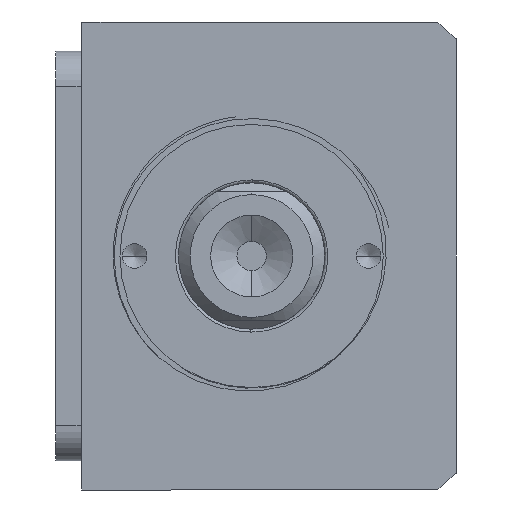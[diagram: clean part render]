
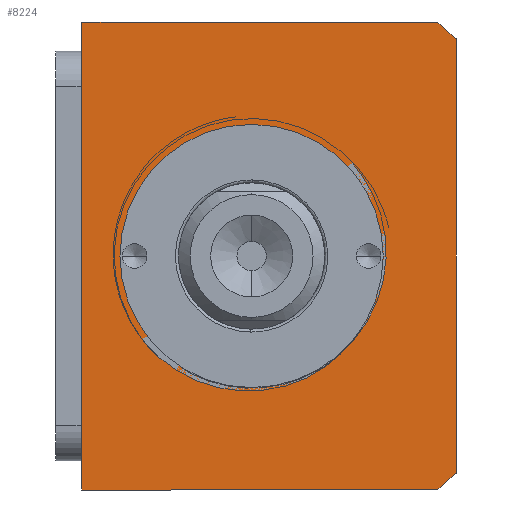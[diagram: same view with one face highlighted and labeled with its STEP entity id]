
A CAD part, front view. The second image highlights one B-rep face of the part: STEP entity #8224.
In plain terms, the highlighted planar face has unit normal (0, -1, 0) as drawn and (0, 0, 1) by its records, which use the part's own axes.
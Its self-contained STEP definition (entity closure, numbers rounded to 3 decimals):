
#115 = DIRECTION ( 'NONE',  ( 0., 0., 1. ) ) ;
#154 = EDGE_CURVE ( 'NONE', #5463, #1239, #7168, .T. ) ;
#220 = ORIENTED_EDGE ( 'NONE', *, *, #8000, .T. ) ;
#335 = VERTEX_POINT ( 'NONE', #1029 ) ;
#463 = AXIS2_PLACEMENT_3D ( 'NONE', #8835, #4159, #9634 ) ;
#497 = EDGE_LOOP ( 'NONE', ( #9937, #2545 ) ) ;
#959 = VECTOR ( 'NONE', #8664, 1000. ) ;
#1029 = CARTESIAN_POINT ( 'NONE',  ( -22.5, -40.507, 105. ) ) ;
#1239 = VERTEX_POINT ( 'NONE', #2631 ) ;
#1458 = CARTESIAN_POINT ( 'NONE',  ( -40., -11.507, 105. ) ) ;
#1502 = EDGE_CURVE ( 'NONE', #5879, #4645, #3535, .T. ) ;
#1591 = CARTESIAN_POINT ( 'NONE',  ( 40., -72.145, 105. ) ) ;
#2097 = DIRECTION ( 'NONE',  ( 0., 1., 0. ) ) ;
#2173 = ORIENTED_EDGE ( 'NONE', *, *, #4571, .T. ) ;
#2282 = CARTESIAN_POINT ( 'NONE',  ( -40., -75.507, 105. ) ) ;
#2518 = ORIENTED_EDGE ( 'NONE', *, *, #5788, .T. ) ;
#2545 = ORIENTED_EDGE ( 'NONE', *, *, #6633, .F. ) ;
#2631 = CARTESIAN_POINT ( 'NONE',  ( -40., -11.507, 105. ) ) ;
#2798 = CARTESIAN_POINT ( 'NONE',  ( 0., -40.507, 105. ) ) ;
#3081 = PLANE ( 'NONE',  #5844 ) ;
#3156 = ORIENTED_EDGE ( 'NONE', *, *, #4826, .T. ) ;
#3226 = CIRCLE ( 'NONE', #6350, 51. ) ;
#3367 = EDGE_CURVE ( 'NONE', #8260, #335, #3612, .T. ) ;
#3535 = LINE ( 'NONE', #2282, #7673 ) ;
#3589 = DIRECTION ( 'NONE',  ( 1., 0., 0. ) ) ;
#3612 = CIRCLE ( 'NONE', #5224, 22.5 ) ;
#3660 = CARTESIAN_POINT ( 'NONE',  ( -40., -72.145, 105. ) ) ;
#3859 = DIRECTION ( 'NONE',  ( 1., 0., 0. ) ) ;
#3887 = DIRECTION ( 'NONE',  ( 1., 0., 0. ) ) ;
#3922 = CARTESIAN_POINT ( 'NONE',  ( 22.5, -40.507, 105. ) ) ;
#4159 = DIRECTION ( 'NONE',  ( 0., 0., 1. ) ) ;
#4227 = CARTESIAN_POINT ( 'NONE',  ( 37.094, -75.507, 105. ) ) ;
#4571 = EDGE_CURVE ( 'NONE', #4645, #10080, #6045, .T. ) ;
#4620 = DIRECTION ( 'NONE',  ( 0., 0., 1. ) ) ;
#4645 = VERTEX_POINT ( 'NONE', #4227 ) ;
#4666 = LINE ( 'NONE', #9915, #6252 ) ;
#4712 = VERTEX_POINT ( 'NONE', #3660 ) ;
#4798 = CARTESIAN_POINT ( 'NONE',  ( 0., -40.507, 105. ) ) ;
#4826 = EDGE_CURVE ( 'NONE', #1239, #4712, #9494, .T. ) ;
#5037 = AXIS2_PLACEMENT_3D ( 'NONE', #2798, #8259, #3589 ) ;
#5224 = AXIS2_PLACEMENT_3D ( 'NONE', #9331, #4620, #10124 ) ;
#5359 = CARTESIAN_POINT ( 'NONE',  ( -40., -11.507, 105. ) ) ;
#5463 = VERTEX_POINT ( 'NONE', #10052 ) ;
#5584 = DIRECTION ( 'NONE',  ( 1., 0., 0. ) ) ;
#5788 = EDGE_CURVE ( 'NONE', #4712, #5879, #3226, .T. ) ;
#5844 = AXIS2_PLACEMENT_3D ( 'NONE', #10041, #8547, #3887 ) ;
#5879 = VERTEX_POINT ( 'NONE', #9498 ) ;
#6045 = CIRCLE ( 'NONE', #463, 51. ) ;
#6252 = VECTOR ( 'NONE', #2097, 1000. ) ;
#6350 = AXIS2_PLACEMENT_3D ( 'NONE', #4798, #115, #5584 ) ;
#6633 = EDGE_CURVE ( 'NONE', #335, #8260, #7614, .T. ) ;
#6962 = ORIENTED_EDGE ( 'NONE', *, *, #154, .T. ) ;
#7168 = LINE ( 'NONE', #1458, #959 ) ;
#7351 = FACE_OUTER_BOUND ( 'NONE', #9570, .T. ) ;
#7598 = FACE_BOUND ( 'NONE', #497, .T. ) ;
#7614 = CIRCLE ( 'NONE', #5037, 22.5 ) ;
#7673 = VECTOR ( 'NONE', #3859, 1000. ) ;
#8000 = EDGE_CURVE ( 'NONE', #10080, #5463, #4666, .T. ) ;
#8224 = ADVANCED_FACE ( 'NONE', ( #7598, #7351 ), #3081, .T. ) ;
#8259 = DIRECTION ( 'NONE',  ( 0., 0., 1. ) ) ;
#8260 = VERTEX_POINT ( 'NONE', #3922 ) ;
#8547 = DIRECTION ( 'NONE',  ( 0., 0., 1. ) ) ;
#8664 = DIRECTION ( 'NONE',  ( -1., 0., 0. ) ) ;
#8835 = CARTESIAN_POINT ( 'NONE',  ( 0., -40.507, 105. ) ) ;
#9234 = VECTOR ( 'NONE', #9270, 1000. ) ;
#9270 = DIRECTION ( 'NONE',  ( 0., -1., 0. ) ) ;
#9331 = CARTESIAN_POINT ( 'NONE',  ( 0., -40.507, 105. ) ) ;
#9494 = LINE ( 'NONE', #5359, #9234 ) ;
#9498 = CARTESIAN_POINT ( 'NONE',  ( -37.094, -75.507, 105. ) ) ;
#9570 = EDGE_LOOP ( 'NONE', ( #3156, #2518, #9581, #2173, #220, #6962 ) ) ;
#9581 = ORIENTED_EDGE ( 'NONE', *, *, #1502, .T. ) ;
#9634 = DIRECTION ( 'NONE',  ( 1., 0., 0. ) ) ;
#9915 = CARTESIAN_POINT ( 'NONE',  ( 40., -11.507, 105. ) ) ;
#9937 = ORIENTED_EDGE ( 'NONE', *, *, #3367, .F. ) ;
#10041 = CARTESIAN_POINT ( 'NONE',  ( 0., 0., 105. ) ) ;
#10052 = CARTESIAN_POINT ( 'NONE',  ( 40., -11.507, 105. ) ) ;
#10080 = VERTEX_POINT ( 'NONE', #1591 ) ;
#10124 = DIRECTION ( 'NONE',  ( 1., 0., 0. ) ) ;
